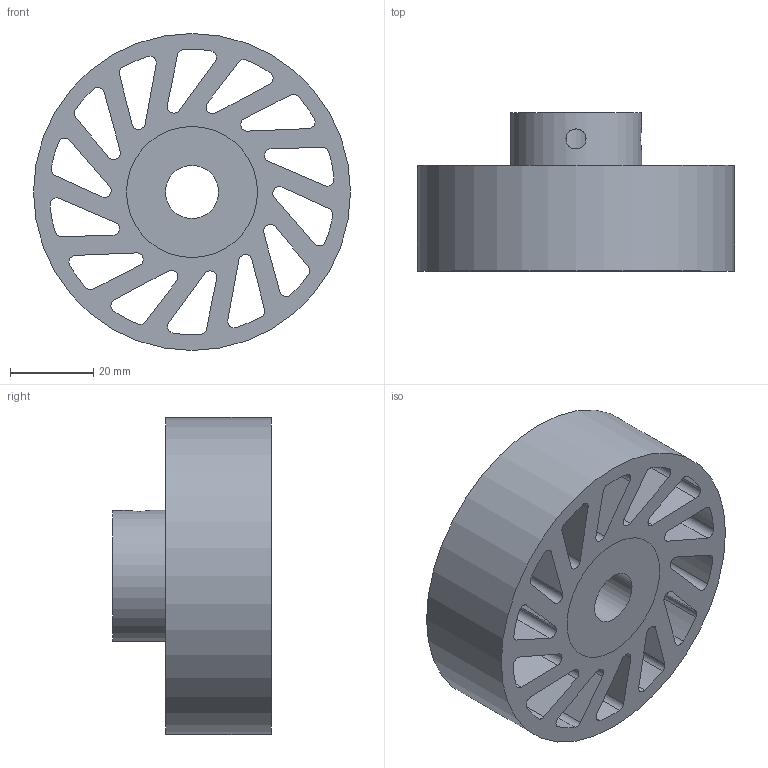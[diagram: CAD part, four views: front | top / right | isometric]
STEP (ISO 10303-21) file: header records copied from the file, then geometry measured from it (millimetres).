
FILE_DESCRIPTION(/* description */ (''),/* implementation_level */ '2;1');
FILE_NAME(/* name */ 'NCW-660-DUR-CLR.stp',/* time_stamp */ '2023-02-01T16:35:42-06:00',/* author */ ('AG'),/* organization */ ('Meridian Laboratory'),/* preprocessor_version */ 'ST-DEVELOPER v18.1',/* originating_system */ 'Autodesk Inventor 2022',/* authorisation */ '');
FILE_SCHEMA (('AUTOMOTIVE_DESIGN { 1 0 10303 214 3 1 1 }'));
Length unit declared in the file: inch
Products named in the file (1): NCW-640-DUR-CLR
Bounding box: 76.2 x 38.1 x 76.2 mm (x, y, z)
Volume: 85200.9 mm3; surface area: 35561.4 mm2
Topology: 2 solids, 2 shells, 94 faces, 274 edges, 184 vertices
Faces by surface type: cylinder 62, plane 32
Full cylindrical faces by diameter (mm): 4.826 x2, 12.725 x1, 31.496 x2, 76.2 x1
Entity records: 3512 total; most frequent: CARTESIAN_POINT 689, DIRECTION 576, ORIENTED_EDGE 548, EDGE_CURVE 274, AXIS2_PLACEMENT_3D 215, VERTEX_POINT 184, LINE 146, VECTOR 146
